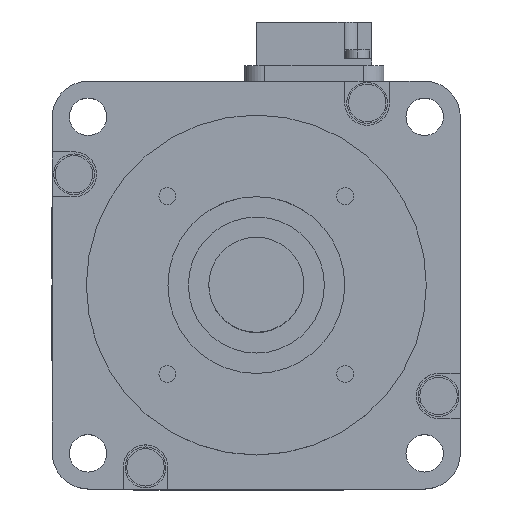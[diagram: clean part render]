
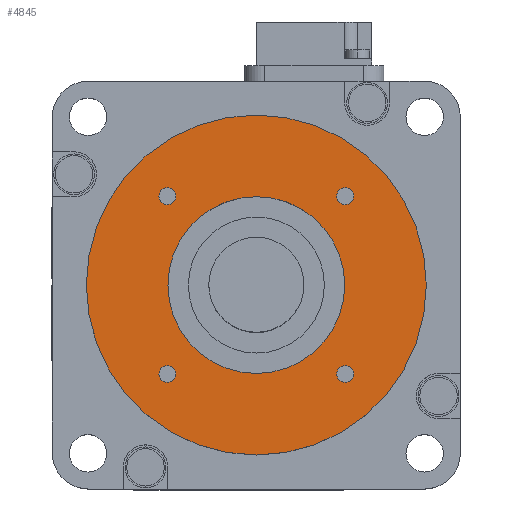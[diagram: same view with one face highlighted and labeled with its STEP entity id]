
A CAD part, top view. The second image highlights one B-rep face of the part: STEP entity #4845.
In plain terms, the highlighted planar face has unit normal (0, 0, 1).
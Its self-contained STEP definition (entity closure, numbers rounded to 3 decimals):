
#94 = VERTEX_POINT ( 'NONE', #5539 ) ;
#616 = VERTEX_POINT ( 'NONE', #6368 ) ;
#626 = VERTEX_POINT ( 'NONE', #6410 ) ;
#859 = EDGE_CURVE ( 'NONE', #1057, #94, #6858, .T. ) ;
#961 = VERTEX_POINT ( 'NONE', #7066 ) ;
#1015 = VERTEX_POINT ( 'NONE', #7103 ) ;
#1057 = VERTEX_POINT ( 'NONE', #7169 ) ;
#1312 = EDGE_LOOP ( 'NONE', ( #1323, #4943 ) ) ;
#1323 = ORIENTED_EDGE ( 'NONE', *, *, #1329, .T. ) ;
#1329 = EDGE_CURVE ( 'NONE', #616, #626, #7658, .T. ) ;
#1350 = ORIENTED_EDGE ( 'NONE', *, *, #859, .F. ) ;
#1353 = EDGE_CURVE ( 'NONE', #94, #1057, #7684, .T. ) ;
#1355 = ORIENTED_EDGE ( 'NONE', *, *, #1353, .F. ) ;
#1358 = EDGE_LOOP ( 'NONE', ( #1355, #1350 ) ) ;
#1359 = EDGE_LOOP ( 'NONE', ( #1364, #1360 ) ) ;
#1360 = ORIENTED_EDGE ( 'NONE', *, *, #1480, .F. ) ;
#1362 = EDGE_CURVE ( 'NONE', #1015, #961, #7746, .T. ) ;
#1364 = ORIENTED_EDGE ( 'NONE', *, *, #1362, .F. ) ;
#1365 = ORIENTED_EDGE ( 'NONE', *, *, #1446, .F. ) ;
#1379 = EDGE_CURVE ( 'NONE', #1430, #6983, #7774, .T. ) ;
#1382 = ORIENTED_EDGE ( 'NONE', *, *, #1379, .F. ) ;
#1430 = VERTEX_POINT ( 'NONE', #7826 ) ;
#1446 = EDGE_CURVE ( 'NONE', #6983, #1430, #7865, .T. ) ;
#1480 = EDGE_CURVE ( 'NONE', #961, #1015, #7893, .T. ) ;
#1536 = EDGE_CURVE ( 'NONE', #4396, #12681, #7950, .T. ) ;
#2154 = CARTESIAN_POINT ( 'NONE',  ( -14.331, -13.081, 3. ) ) ;
#2268 = EDGE_CURVE ( 'NONE', #626, #616, #8789, .T. ) ;
#2278 = DIRECTION ( 'NONE',  ( -1., 0., 0. ) ) ;
#2279 = DIRECTION ( 'NONE',  ( 0., 0., -1. ) ) ;
#2280 = CARTESIAN_POINT ( 'NONE',  ( 0., 0., 3. ) ) ;
#2281 = AXIS2_PLACEMENT_3D ( 'NONE', #2280, #2279, #2278 ) ;
#2282 = CIRCLE ( 'NONE', #2281, 25. ) ;
#2713 = CARTESIAN_POINT ( 'NONE',  ( 14.331, -13.081, 3. ) ) ;
#3731 = VERTEX_POINT ( 'NONE', #9617 ) ;
#4384 = VERTEX_POINT ( 'NONE', #10708 ) ;
#4396 = VERTEX_POINT ( 'NONE', #10751 ) ;
#4407 = EDGE_CURVE ( 'NONE', #3731, #4384, #10796, .T. ) ;
#4788 = EDGE_LOOP ( 'NONE', ( #1382, #1365 ) ) ;
#4797 = ORIENTED_EDGE ( 'NONE', *, *, #1536, .F. ) ;
#4814 = ORIENTED_EDGE ( 'NONE', *, *, #4830, .F. ) ;
#4830 = EDGE_CURVE ( 'NONE', #12681, #4396, #11527, .T. ) ;
#4844 = EDGE_LOOP ( 'NONE', ( #4814, #4797 ) ) ;
#4845 = ADVANCED_FACE ( 'NONE', ( #11570, #11569, #11568, #11567, #11566, #11565 ), #11564, .T. ) ;
#4911 = EDGE_LOOP ( 'NONE', ( #8854, #8645 ) ) ;
#4943 = ORIENTED_EDGE ( 'NONE', *, *, #2268, .T. ) ;
#5539 = CARTESIAN_POINT ( 'NONE',  ( 14.331, 13.081, 3. ) ) ;
#6368 = CARTESIAN_POINT ( 'NONE',  ( -13., 0., 3. ) ) ;
#6410 = CARTESIAN_POINT ( 'NONE',  ( 13., 0., 3. ) ) ;
#6854 = DIRECTION ( 'NONE',  ( 1., 0., 0. ) ) ;
#6855 = DIRECTION ( 'NONE',  ( 0., 0., 1. ) ) ;
#6856 = CARTESIAN_POINT ( 'NONE',  ( 13.081, 13.081, 3. ) ) ;
#6857 = AXIS2_PLACEMENT_3D ( 'NONE', #6856, #6855, #6854 ) ;
#6858 = CIRCLE ( 'NONE', #6857, 1.25 ) ;
#6983 = VERTEX_POINT ( 'NONE', #2154 ) ;
#7066 = CARTESIAN_POINT ( 'NONE',  ( -14.331, 13.081, 3. ) ) ;
#7103 = CARTESIAN_POINT ( 'NONE',  ( -11.831, 13.081, 3. ) ) ;
#7169 = CARTESIAN_POINT ( 'NONE',  ( 11.831, 13.081, 3. ) ) ;
#7654 = DIRECTION ( 'NONE',  ( -1., 0., 0. ) ) ;
#7655 = DIRECTION ( 'NONE',  ( 0., 0., -1. ) ) ;
#7656 = CARTESIAN_POINT ( 'NONE',  ( 0., 0., 3. ) ) ;
#7657 = AXIS2_PLACEMENT_3D ( 'NONE', #7656, #7655, #7654 ) ;
#7658 = CIRCLE ( 'NONE', #7657, 13. ) ;
#7679 = DIRECTION ( 'NONE',  ( 1., 0., 0. ) ) ;
#7680 = DIRECTION ( 'NONE',  ( 0., 0., 1. ) ) ;
#7682 = CARTESIAN_POINT ( 'NONE',  ( 13.081, 13.081, 3. ) ) ;
#7683 = AXIS2_PLACEMENT_3D ( 'NONE', #7682, #7680, #7679 ) ;
#7684 = CIRCLE ( 'NONE', #7683, 1.25 ) ;
#7742 = DIRECTION ( 'NONE',  ( 0., 1., 0. ) ) ;
#7743 = DIRECTION ( 'NONE',  ( 0., 0., 1. ) ) ;
#7744 = CARTESIAN_POINT ( 'NONE',  ( -13.081, 13.081, 3. ) ) ;
#7745 = AXIS2_PLACEMENT_3D ( 'NONE', #7744, #7743, #7742 ) ;
#7746 = CIRCLE ( 'NONE', #7745, 1.25 ) ;
#7770 = DIRECTION ( 'NONE',  ( -1., 0., 0. ) ) ;
#7771 = DIRECTION ( 'NONE',  ( 0., 0., 1. ) ) ;
#7772 = CARTESIAN_POINT ( 'NONE',  ( -13.081, -13.081, 3. ) ) ;
#7773 = AXIS2_PLACEMENT_3D ( 'NONE', #7772, #7771, #7770 ) ;
#7774 = CIRCLE ( 'NONE', #7773, 1.25 ) ;
#7826 = CARTESIAN_POINT ( 'NONE',  ( -11.831, -13.081, 3. ) ) ;
#7861 = DIRECTION ( 'NONE',  ( -1., 0., 0. ) ) ;
#7862 = DIRECTION ( 'NONE',  ( 0., 0., 1. ) ) ;
#7863 = CARTESIAN_POINT ( 'NONE',  ( -13.081, -13.081, 3. ) ) ;
#7864 = AXIS2_PLACEMENT_3D ( 'NONE', #7863, #7862, #7861 ) ;
#7865 = CIRCLE ( 'NONE', #7864, 1.25 ) ;
#7889 = DIRECTION ( 'NONE',  ( 0., 1., 0. ) ) ;
#7890 = DIRECTION ( 'NONE',  ( 0., 0., 1. ) ) ;
#7891 = CARTESIAN_POINT ( 'NONE',  ( -13.081, 13.081, 3. ) ) ;
#7892 = AXIS2_PLACEMENT_3D ( 'NONE', #7891, #7890, #7889 ) ;
#7893 = CIRCLE ( 'NONE', #7892, 1.25 ) ;
#7946 = DIRECTION ( 'NONE',  ( 0., -1., 0. ) ) ;
#7947 = DIRECTION ( 'NONE',  ( 0., 0., 1. ) ) ;
#7948 = CARTESIAN_POINT ( 'NONE',  ( 13.081, -13.081, 3. ) ) ;
#7949 = AXIS2_PLACEMENT_3D ( 'NONE', #7948, #7947, #7946 ) ;
#7950 = CIRCLE ( 'NONE', #7949, 1.25 ) ;
#8644 = EDGE_CURVE ( 'NONE', #4384, #3731, #2282, .T. ) ;
#8645 = ORIENTED_EDGE ( 'NONE', *, *, #8644, .F. ) ;
#8785 = DIRECTION ( 'NONE',  ( -1., 0., 0. ) ) ;
#8786 = DIRECTION ( 'NONE',  ( 0., 0., -1. ) ) ;
#8787 = CARTESIAN_POINT ( 'NONE',  ( 0., 0., 3. ) ) ;
#8788 = AXIS2_PLACEMENT_3D ( 'NONE', #8787, #8786, #8785 ) ;
#8789 = CIRCLE ( 'NONE', #8788, 13. ) ;
#8854 = ORIENTED_EDGE ( 'NONE', *, *, #4407, .F. ) ;
#9617 = CARTESIAN_POINT ( 'NONE',  ( -25., 0., 3. ) ) ;
#10708 = CARTESIAN_POINT ( 'NONE',  ( 25., 0., 3. ) ) ;
#10751 = CARTESIAN_POINT ( 'NONE',  ( 11.831, -13.081, 3. ) ) ;
#10792 = DIRECTION ( 'NONE',  ( -1., 0., 0. ) ) ;
#10793 = DIRECTION ( 'NONE',  ( 0., 0., -1. ) ) ;
#10794 = CARTESIAN_POINT ( 'NONE',  ( 0., 0., 3. ) ) ;
#10795 = AXIS2_PLACEMENT_3D ( 'NONE', #10794, #10793, #10792 ) ;
#10796 = CIRCLE ( 'NONE', #10795, 25. ) ;
#11523 = DIRECTION ( 'NONE',  ( 0., -1., 0. ) ) ;
#11524 = DIRECTION ( 'NONE',  ( 0., 0., 1. ) ) ;
#11525 = CARTESIAN_POINT ( 'NONE',  ( 13.081, -13.081, 3. ) ) ;
#11526 = AXIS2_PLACEMENT_3D ( 'NONE', #11525, #11524, #11523 ) ;
#11527 = CIRCLE ( 'NONE', #11526, 1.25 ) ;
#11560 = DIRECTION ( 'NONE',  ( 1., 0., 0. ) ) ;
#11561 = DIRECTION ( 'NONE',  ( 0., 0., 1. ) ) ;
#11562 = CARTESIAN_POINT ( 'NONE',  ( 0., 25., 3. ) ) ;
#11563 = AXIS2_PLACEMENT_3D ( 'NONE', #11562, #11561, #11560 ) ;
#11564 = PLANE ( 'NONE',  #11563 ) ;
#11565 = FACE_OUTER_BOUND ( 'NONE', #4911, .T. ) ;
#11566 = FACE_BOUND ( 'NONE', #1312, .T. ) ;
#11567 = FACE_BOUND ( 'NONE', #1358, .T. ) ;
#11568 = FACE_BOUND ( 'NONE', #1359, .T. ) ;
#11569 = FACE_BOUND ( 'NONE', #4788, .T. ) ;
#11570 = FACE_BOUND ( 'NONE', #4844, .T. ) ;
#12681 = VERTEX_POINT ( 'NONE', #2713 ) ;
